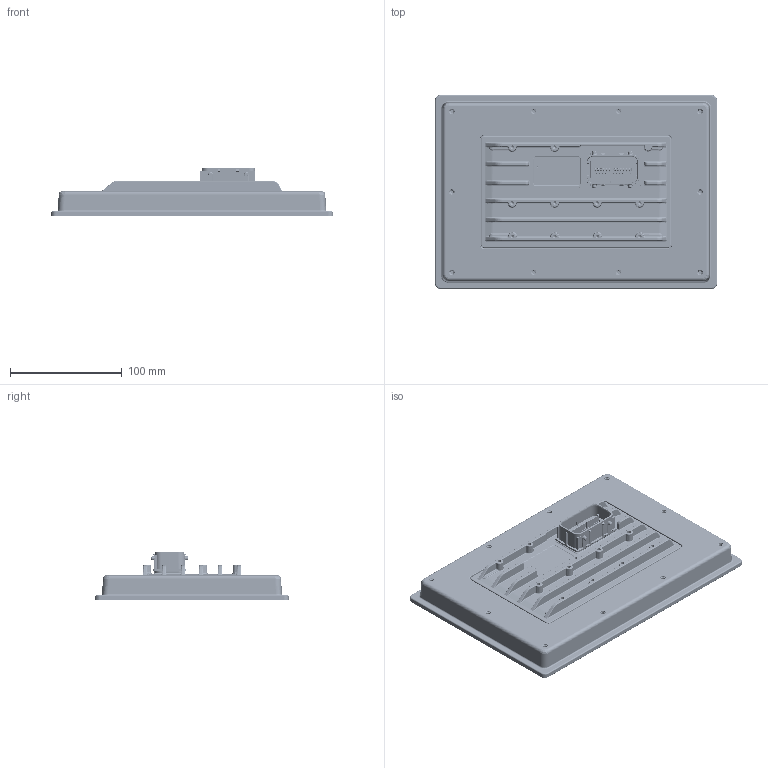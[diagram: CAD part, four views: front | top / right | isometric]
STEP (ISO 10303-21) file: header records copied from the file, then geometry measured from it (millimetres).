
FILE_DESCRIPTION(/* description */ (''),/* implementation_level */ '2;1');
FILE_NAME(/* name */ 'C:\Vault_Workfolder\Designs\A-MD5\Marknad\IQAN MD5-10_assembly.stp',/* time_stamp */ '2024-03-11T14:39:43+01:00',/* author */ ('FW62974B'),/* organization */ (''),/* preprocessor_version */ 'ST-DEVELOPER v18',/* originating_system */ 'Autodesk Inventor 2020',/* authorisation */ '');
FILE_SCHEMA (('AUTOMOTIVE_DESIGN { 1 0 10303 214 3 1 1 }'));
Products named in the file (1): IQAN MD5-10_assembly
Bounding box: 252.11 x 173.1 x 43.47 mm (x, y, z)
Volume: 550630.6 mm3; surface area: 453050.1 mm2
Topology: 15 solids, 18 shells, 13568 faces, 34505 edges, 20469 vertices
Faces by surface type: cylinder 4470, plane 4058, bspline 3954, cone 590, torus 322, sphere 174
Full cylindrical faces by diameter (mm): 1 x2, 2 x1, 2.007 x3, 2.01 x1, 2.459 x4, 2.8 x1, 3 x5, 3.03 x1, 3.2 x4, 3.242 x10, 3.5 x4, 5 x1, 5.6 x5, 7 x4, 8 x5
Entity records: 639281 total; most frequent: CARTESIAN_POINT 318728, ORIENTED_EDGE 67472, DIRECTION 58994, EDGE_CURVE 33736, AXIS2_PLACEMENT_3D 21691, VERTEX_POINT 20469, LINE 15612, VECTOR 15612
